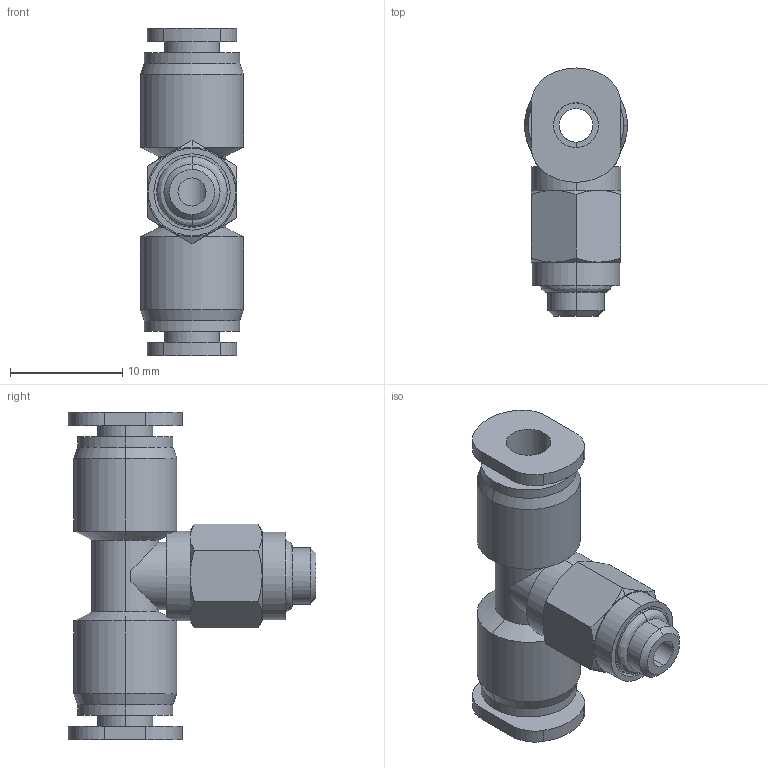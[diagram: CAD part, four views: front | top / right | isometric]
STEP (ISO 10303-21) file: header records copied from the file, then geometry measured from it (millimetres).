
FILE_DESCRIPTION (( 'STEP AP214' ), '1' );
FILE_NAME ('PB-04-M5-C (3D).STEP', '2019-01-23T08:57:02', ( 'Hidtek' ), ( '' ), 'SwSTEP 2.0', 'SolidWorks 2016', '' );
FILE_SCHEMA (( 'AUTOMOTIVE_DESIGN' ));
Length unit declared in the file: millimetre
Products named in the file (1): PB-04-M5-C (3D)
Bounding box: 9.2 x 22.1 x 29.2 mm (x, y, z)
Volume: 1741.6 mm3; surface area: 2036.9 mm2
Topology: 1 solids, 1 shells, 316 faces, 808 edges, 523 vertices
Faces by surface type: plane 189, bspline 52, cylinder 51, cone 24
Entity records: 15291 total; most frequent: CARTESIAN_POINT 5190, ORIENTED_EDGE 1608, DIRECTION 1297, EDGE_CURVE 804, VECTOR 549, LINE 549, VERTEX_POINT 521, AXIS2_PLACEMENT_3D 374
